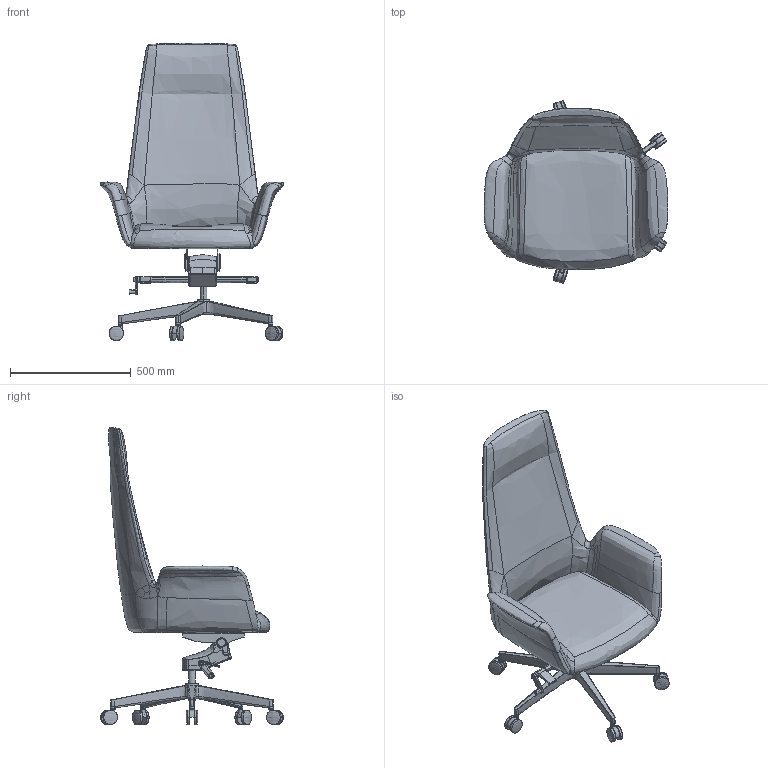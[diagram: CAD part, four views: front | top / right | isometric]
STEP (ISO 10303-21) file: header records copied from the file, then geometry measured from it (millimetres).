
FILE_DESCRIPTION(/* description */ (''),/* implementation_level */ '2;1');
FILE_NAME(/* name */ '01',/* time_stamp */ '2020-11-09T14:39:02+08:00',/* author */ (''),/* organization */ (''),/* preprocessor_version */ 'ST-DEVELOPER v15',/* originating_system */ '',/* authorisation */ '');
FILE_SCHEMA (('AUTOMOTIVE_DESIGN'));
Length unit declared in the file: millimetre
Products named in the file (1): Document
Bounding box: 761.23 x 757.57 x 1232.43 mm (x, y, z)
Volume: 65999776 mm3; surface area: 2820357 mm2
Topology: 30 solids, 47 shells, 667 faces, 1552 edges, 925 vertices
Faces by surface type: bspline 579, plane 88
Entity records: 120822 total; most frequent: CARTESIAN_POINT 112595, ORIENTED_EDGE 2974, EDGE_CURVE 1531, VERTEX_POINT 923, EDGE_LOOP 669, ADVANCED_FACE 667, FACE_OUTER_BOUND 667, B_SPLINE_CURVE_WITH_KNOTS 278
